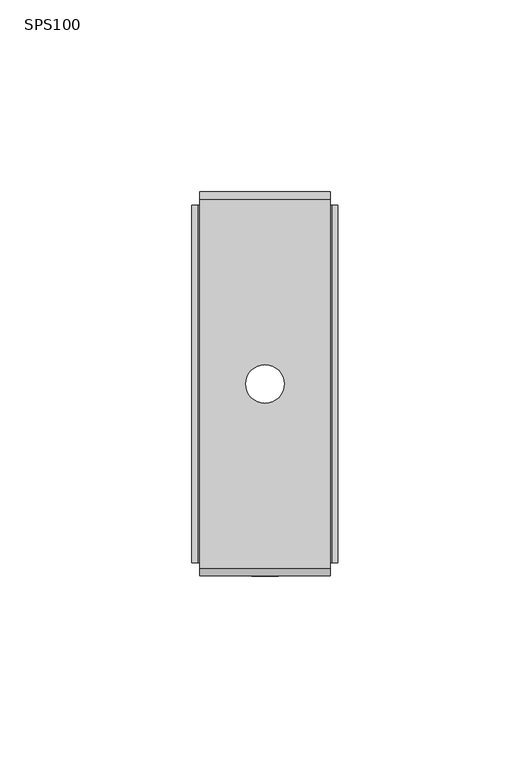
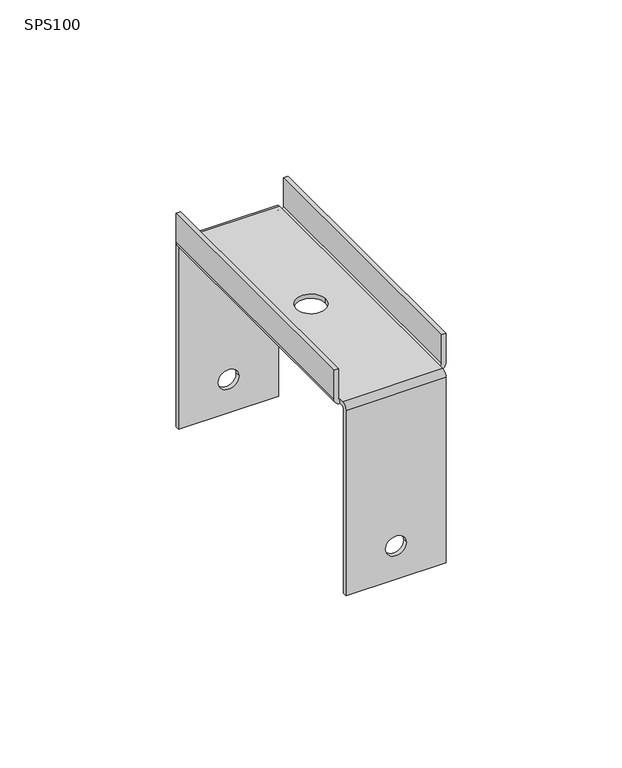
"""IFC4 building model written with IfcOpenShell, lengths in millimetres: proxy geometry, КМ Профиль_Скоба для подвеса на шпильке SPS : SPS100."""

from ifc_helpers import new_model, si_unit, frame, origin, place, context, project, spatial, polyline, circle_curve, source, transform, mapped, element, save
from ifc_brep_helpers import plane_surface, cylinder_surface, revolved_surface, advanced_brep


def sps100_17b1288e(model_context):
    return source(origin(), model_context, "Body", "AdvancedBrep", [
        advanced_brep(
        [(-17.0, 48.0, 0.0), (-17.0, 50.0, -2.0), (-17.0, 50.0, -68.5), (-17.0, 48.5, -68.5), (-17.0, 48.5, -2.0), (-17.0, 48.0, -1.5), (-17.0, 46.5, -1.5), (-17.0, 46.5, 0.0), (-17.0, -48.0, -1.5), (-17.0, -48.5, -2.0), (-17.0, -48.5, -68.5), (-17.0, -50.0, -68.5), (-17.0, -50.0, -2.0), (-17.0, -48.0, 0.0), (-17.0, -46.5, 0.0), (-17.0, -46.5, -1.5), (17.0, -48.0, 0.0), (17.0, -50.0, -2.0), (17.0, -50.0, -68.5), (17.0, -48.5, -68.5), (17.0, -48.5, -2.0), (17.0, -48.0, -1.5), (17.0, -46.5, -1.5), (17.0, -46.5, 0.0), (17.0, 48.0, -1.5), (17.0, 48.5, -2.0), (17.0, 48.5, -68.5), (17.0, 50.0, -68.5), (17.0, 50.0, -2.0), (17.0, 48.0, 0.0), (17.0, 46.5, 0.0), (17.0, 46.5, -1.5), (5.0, 0.0, 0.0), (0.0, -5.0, 0.0), (-5.0, 0.0, 0.0), (0.0, 5.0, 0.0), (-3.5, -48.5, -56.5), (3.5, -48.5, -56.5), (3.5, -50.0, -56.5), (-3.5, -50.0, -56.5), (5.0, 0.0, -1.5), (0.0, 5.0, -1.5), (-5.0, 0.0, -1.5), (0.0, -5.0, -1.5), (-3.5, 50.0, -56.5), (3.5, 50.0, -56.5), (3.5, 48.5, -56.5), (-3.5, 48.5, -56.5), (19.0, 46.5, 11.0), (19.0, 46.5, 0.5), (17.5, 46.5, 0.5), (17.5, 46.5, 11.0), (-19.0, 46.5, 0.5), (-19.0, 46.5, 11.0), (-17.5, 46.5, 11.0), (-17.5, 46.5, 0.5), (19.0, -46.5, 0.5), (19.0, -46.5, 11.0), (17.5, -46.5, 11.0), (17.5, -46.5, 0.5), (-17.5, -46.5, 0.5), (-17.5, -46.5, 11.0), (-19.0, -46.5, 11.0), (-19.0, -46.5, 0.5)],
        [
            (0, 1, circle_curve(frame((-17.0, 48.0, -2.0), z_axis=(-1.0, 0.0, 0.0), x_axis=(0.0, 1.0, 0.0)), 2.0)),
            (1, 2),
            (2, 3),
            (3, 4),
            (4, 5, circle_curve(frame((-17.0, 48.0, -2.0), z_axis=(1.0, 0.0, 0.0), x_axis=(0.0, 1.0, 0.0)), 0.5)),
            (5, 6),
            (6, 7),
            (7, 0),
            (8, 9, circle_curve(frame((-17.0, -48.0, -2.0), z_axis=(1.0, 0.0, 0.0), x_axis=(0.0, 1.0, 0.0)), 0.5)),
            (9, 10),
            (10, 11),
            (11, 12),
            (12, 13, circle_curve(frame((-17.0, -48.0, -2.0), z_axis=(-1.0, 0.0, 0.0), x_axis=(0.0, 1.0, 0.0)), 2.0)),
            (13, 14),
            (14, 15),
            (15, 8),
            (16, 17, circle_curve(frame((17.0, -48.0, -2.0), z_axis=(1.0, 0.0, 0.0), x_axis=(0.0, 1.0, 0.0)), 2.0)),
            (17, 18),
            (18, 19),
            (19, 20),
            (20, 21, circle_curve(frame((17.0, -48.0, -2.0), z_axis=(-1.0, 0.0, 0.0), x_axis=(0.0, 1.0, 0.0)), 0.5)),
            (21, 22),
            (22, 23),
            (23, 16),
            (24, 25, circle_curve(frame((17.0, 48.0, -2.0), z_axis=(-1.0, 0.0, 0.0), x_axis=(0.0, 1.0, 0.0)), 0.5)),
            (25, 26),
            (26, 27),
            (27, 28),
            (28, 29, circle_curve(frame((17.0, 48.0, -2.0), z_axis=(1.0, 0.0, 0.0), x_axis=(0.0, 1.0, 0.0)), 2.0)),
            (29, 30),
            (30, 31),
            (31, 24),
            (13, 16),
            (23, 30),
            (29, 0),
            (7, 14),
            (32, 33, circle_curve(frame((0.0, 0.0, 0.0), z_axis=(0.0, 0.0, -1.0), x_axis=(1.0, 0.0, 0.0)), 5.0)),
            (33, 34, circle_curve(frame((0.0, 0.0, 0.0), z_axis=(0.0, 0.0, -1.0), x_axis=(1.0, 0.0, 0.0)), 5.0)),
            (34, 35, circle_curve(frame((0.0, 0.0, 0.0), z_axis=(0.0, 0.0, -1.0), x_axis=(1.0, 0.0, 0.0)), 5.0)),
            (35, 32, circle_curve(frame((0.0, 0.0, 0.0), z_axis=(0.0, 0.0, -1.0), x_axis=(1.0, 0.0, 0.0)), 5.0)),
            (9, 20),
            (19, 10),
            (36, 37, circle_curve(frame((0.0, -48.5, -56.5), z_axis=(0.0, -1.0, 0.0), x_axis=(1.0, 0.0, 0.0)), 3.5)),
            (37, 36, circle_curve(frame((0.0, -48.5, -56.5), z_axis=(0.0, -1.0, 0.0), x_axis=(1.0, 0.0, 0.0)), 3.5)),
            (18, 11),
            (17, 12),
            (38, 39, circle_curve(frame((0.0, -50.0, -56.5), z_axis=(0.0, 1.0, 0.0), x_axis=(1.0, 0.0, 0.0)), 3.5)),
            (39, 38, circle_curve(frame((0.0, -50.0, -56.5), z_axis=(0.0, 1.0, 0.0), x_axis=(1.0, 0.0, 0.0)), 3.5)),
            (5, 24),
            (31, 22),
            (21, 8),
            (15, 6),
            (40, 41, circle_curve(frame((0.0, 0.0, -1.5), z_axis=(0.0, 0.0, 1.0), x_axis=(1.0, 0.0, 0.0)), 5.0)),
            (41, 42, circle_curve(frame((0.0, 0.0, -1.5), z_axis=(0.0, 0.0, 1.0), x_axis=(1.0, 0.0, 0.0)), 5.0)),
            (42, 43, circle_curve(frame((0.0, 0.0, -1.5), z_axis=(0.0, 0.0, 1.0), x_axis=(1.0, 0.0, 0.0)), 5.0)),
            (43, 40, circle_curve(frame((0.0, 0.0, -1.5), z_axis=(0.0, 0.0, 1.0), x_axis=(1.0, 0.0, 0.0)), 5.0)),
            (1, 28),
            (27, 2),
            (44, 45, circle_curve(frame((0.0, 50.0, -56.5), z_axis=(0.0, -1.0, 0.0), x_axis=(1.0, 0.0, 0.0)), 3.5)),
            (45, 44, circle_curve(frame((0.0, 50.0, -56.5), z_axis=(0.0, -1.0, 0.0), x_axis=(1.0, 0.0, 0.0)), 3.5)),
            (26, 3),
            (25, 4),
            (46, 47, circle_curve(frame((0.0, 48.5, -56.5), z_axis=(0.0, 1.0, 0.0), x_axis=(1.0, 0.0, 0.0)), 3.5)),
            (47, 46, circle_curve(frame((0.0, 48.5, -56.5), z_axis=(0.0, 1.0, 0.0), x_axis=(1.0, 0.0, 0.0)), 3.5)),
            (32, 40),
            (42, 34),
            (48, 49),
            (49, 31, circle_curve(frame((17.0, 46.5, 0.5), z_axis=(0.0, 1.0, 0.0), x_axis=(1.0, 0.0, 0.0)), 2.0)),
            (30, 50, circle_curve(frame((17.0, 46.5, 0.5), z_axis=(0.0, -1.0, 0.0), x_axis=(1.0, 0.0, 0.0)), 0.5)),
            (50, 51),
            (51, 48),
            (6, 52, circle_curve(frame((-17.0, 46.5, 0.5), z_axis=(0.0, 1.0, 0.0), x_axis=(1.0, 0.0, 0.0)), 2.0)),
            (52, 53),
            (53, 54),
            (54, 55),
            (55, 7, circle_curve(frame((-17.0, 46.5, 0.5), z_axis=(0.0, -1.0, 0.0), x_axis=(1.0, 0.0, 0.0)), 0.5)),
            (56, 57),
            (57, 58),
            (58, 59),
            (59, 23, circle_curve(frame((17.0, -46.5, 0.5), z_axis=(0.0, 1.0, 0.0), x_axis=(1.0, 0.0, 0.0)), 0.5)),
            (22, 56, circle_curve(frame((17.0, -46.5, 0.5), z_axis=(0.0, -1.0, 0.0), x_axis=(1.0, 0.0, 0.0)), 2.0)),
            (14, 60, circle_curve(frame((-17.0, -46.5, 0.5), z_axis=(0.0, 1.0, 0.0), x_axis=(1.0, 0.0, 0.0)), 0.5)),
            (60, 61),
            (61, 62),
            (62, 63),
            (63, 15, circle_curve(frame((-17.0, -46.5, 0.5), z_axis=(0.0, -1.0, 0.0), x_axis=(1.0, 0.0, 0.0)), 2.0)),
            (48, 57),
            (56, 49),
            (63, 52),
            (62, 53),
            (61, 54),
            (60, 55),
            (59, 50),
            (58, 51),
            (36, 39),
            (38, 37),
            (44, 47),
            (46, 45),
        ],
        [
            plane_surface(frame((-17.0, 0.0, 0.0), z_axis=(-1.0, 0.0, 0.0), x_axis=(0.0, 0.0, 1.0))),
            plane_surface(frame((17.0, 0.0, 0.0), z_axis=(1.0, 0.0, 0.0), x_axis=(0.0, 0.0, 1.0))),
            plane_surface(frame((-17.0, -48.0, 0.0), z_axis=(0.0, 0.0, 1.0), x_axis=(1.0, 0.0, 0.0))),
            plane_surface(frame((-17.0, -48.5, -2.0), z_axis=(0.0, 1.0, 0.0), x_axis=(1.0, 0.0, 0.0))),
            plane_surface(frame((-17.0, -48.5, -68.5), z_axis=(0.0, 0.0, -1.0), x_axis=(1.0, 0.0, 0.0))),
            plane_surface(frame((-17.0, -50.0, -68.5), z_axis=(0.0, -1.0, 0.0), x_axis=(1.0, 0.0, 0.0))),
            plane_surface(frame((-17.0, 48.0, -1.5), z_axis=(0.0, 0.0, -1.0), x_axis=(1.0, 0.0, 0.0))),
            plane_surface(frame((-17.0, 50.0, -2.0), z_axis=(0.0, 1.0, 0.0), x_axis=(1.0, 0.0, 0.0))),
            plane_surface(frame((-17.0, 50.0, -68.5), z_axis=(0.0, 0.0, -1.0), x_axis=(1.0, 0.0, 0.0))),
            plane_surface(frame((-17.0, 48.5, -68.5), z_axis=(0.0, -1.0, 0.0), x_axis=(1.0, 0.0, 0.0))),
            revolved_surface(polyline([(17.0, 48.5, -2.0), (-17.0, 48.5, -2.0)]), (-17.0, 48.0, -2.0), (1.0, 0.0, 0.0)),
            revolved_surface(polyline([(17.0, -47.5, -2.0), (-17.0, -47.5, -2.0)]), (-17.0, -48.0, -2.0), (1.0, 0.0, 0.0)),
            cylinder_surface(frame((-17.0, -48.0, -2.0), z_axis=(-1.0, 0.0, 0.0), x_axis=(0.0, 1.0, 0.0)), 2.0),
            cylinder_surface(frame((-17.0, 48.0, -2.0), z_axis=(-1.0, 0.0, 0.0), x_axis=(0.0, 1.0, 0.0)), 2.0),
            revolved_surface(polyline([(5.0, 0.0, 0.0), (5.0, 0.0, -1.5)]), (0.0, 0.0, -1.5), (0.0, 0.0, 1.0)),
            plane_surface(frame((0.0, 46.5, 0.0), z_axis=(0.0, 1.0, 0.0), x_axis=(0.0, 0.0, 1.0))),
            plane_surface(frame((0.0, -46.5, 0.0), z_axis=(0.0, -1.0, 0.0), x_axis=(0.0, 0.0, 1.0))),
            plane_surface(frame((19.0, 46.5, 11.0), z_axis=(1.0, 0.0, 0.0), x_axis=(0.0, -1.0, 0.0))),
            cylinder_surface(frame((17.0, 46.5, 0.5), z_axis=(0.0, 1.0, 0.0), x_axis=(1.0, 0.0, 0.0)), 2.0),
            cylinder_surface(frame((-17.0, 46.5, 0.5), z_axis=(0.0, 1.0, 0.0), x_axis=(1.0, 0.0, 0.0)), 2.0),
            plane_surface(frame((-19.0, 46.5, 0.5), z_axis=(-1.0, 0.0, 0.0), x_axis=(0.0, -1.0, 0.0))),
            plane_surface(frame((-19.0, 46.5, 11.0), z_axis=(0.0, 0.0, 1.0), x_axis=(0.0, -1.0, 0.0))),
            plane_surface(frame((-17.5, 46.5, 11.0), z_axis=(1.0, 0.0, 0.0), x_axis=(0.0, -1.0, 0.0))),
            revolved_surface(polyline([(-16.5, -46.5, 0.5), (-16.5, 46.5, 0.5)]), (-17.0, 46.5, 0.5), (0.0, -1.0, 0.0)),
            revolved_surface(polyline([(17.5, -46.5, 0.5), (17.5, 46.5, 0.5)]), (17.0, 46.5, 0.5), (0.0, -1.0, 0.0)),
            plane_surface(frame((17.5, 46.5, 0.5), z_axis=(-1.0, 0.0, 0.0), x_axis=(0.0, -1.0, 0.0))),
            plane_surface(frame((17.5, 46.5, 11.0), z_axis=(0.0, 0.0, 1.0), x_axis=(0.0, -1.0, 0.0))),
            revolved_surface(polyline([(3.5, -50.0, -56.5), (3.5, -48.5, -56.5)]), (0.0, 50.0, -56.5), (0.0, -1.0, 0.0)),
            revolved_surface(polyline([(3.5, 48.5, -56.5), (3.5, 50.0, -56.5)]), (0.0, 50.0, -56.5), (0.0, -1.0, 0.0)),
        ],
        [
            (0, [[1, 2, 3, 4, 5, 6, 7, 8]]),
            (0, [[9, 10, 11, 12, 13, 14, 15, 16]]),
            (1, [[17, 18, 19, 20, 21, 22, 23, 24]]),
            (1, [[25, 26, 27, 28, 29, 30, 31, 32]]),
            (2, [[33, -24, 34, -30, 35, -8, 36, -14], [37, 38, 39, 40]]),
            (3, [[-10, 41, -20, 42], [43, 44]]),
            (4, [[-11, -42, -19, 45]]),
            (5, [[-12, -45, -18, 46], [47, 48]]),
            (6, [[49, -32, 50, -22, 51, -16, 52, -6], [53, 54, 55, 56]]),
            (7, [[-2, 57, -28, 58], [59, 60]]),
            (8, [[-3, -58, -27, 61]]),
            (9, [[-4, -61, -26, 62], [63, 64]]),
            (10, [[-5, -62, -25, -49]]),
            (11, [[-9, -51, -21, -41]]),
            (12, [[-13, -46, -17, -33]]),
            (13, [[-1, -35, -29, -57]]),
            (14, [[65, -56, -55, 66, -38, -37]]),
            (14, [[-65, -40, -39, -66, -54, -53]]),
            (15, [[67, 68, -31, 69, 70, 71]]),
            (15, [[72, 73, 74, 75, 76, -7]]),
            (16, [[77, 78, 79, 80, -23, 81]]),
            (16, [[82, 83, 84, 85, 86, -15]]),
            (17, [[-67, 87, -77, 88]]),
            (18, [[-68, -88, -81, -50]]),
            (19, [[-72, -52, -86, 89]]),
            (20, [[-73, -89, -85, 90]]),
            (21, [[-74, -90, -84, 91]]),
            (22, [[-75, -91, -83, 92]]),
            (23, [[-76, -92, -82, -36]]),
            (24, [[-69, -34, -80, 93]]),
            (25, [[-70, -93, -79, 94]]),
            (26, [[-71, -94, -78, -87]]),
            (27, [[-43, 95, -47, 96]]),
            (28, [[-59, 97, -63, 98]]),
            (27, [[-44, -96, -48, -95]]),
            (28, [[-60, -98, -64, -97]]),
        ],
    ),
    ])


if __name__ == "__main__":
    model = new_model("IFC4")
    model_context = context("Model", 3, world=origin())
    ifc_project = project(units=[si_unit("LENGTHUNIT", "METRE", prefix="MILLI")], contexts=[model_context])
    site = spatial("IfcSite", under=ifc_project)
    building = spatial("IfcBuilding", under=site)
    placement = place(None, origin())
    sps100_shape = sps100_17b1288e(model_context)
    element("IfcBuildingElementProxy", 1, Name="КМ Профиль_Скоба для подвеса на шпильке SPS : SPS100", ObjectType="КМ Профиль_Скоба для подвеса на шпильке SPS : SPS100", at=placement, inside=building, context=model_context, shape_type="MappedRepresentation", body=[
        mapped(sps100_shape, transform((0.0, 0.0, 0.0), x_axis=(1.0, 0.0, 0.0), y_axis=(0.0, 1.0, 0.0), z_axis=(0.0, 0.0, 1.0))),
    ])
    save(model, "model.ifc")
